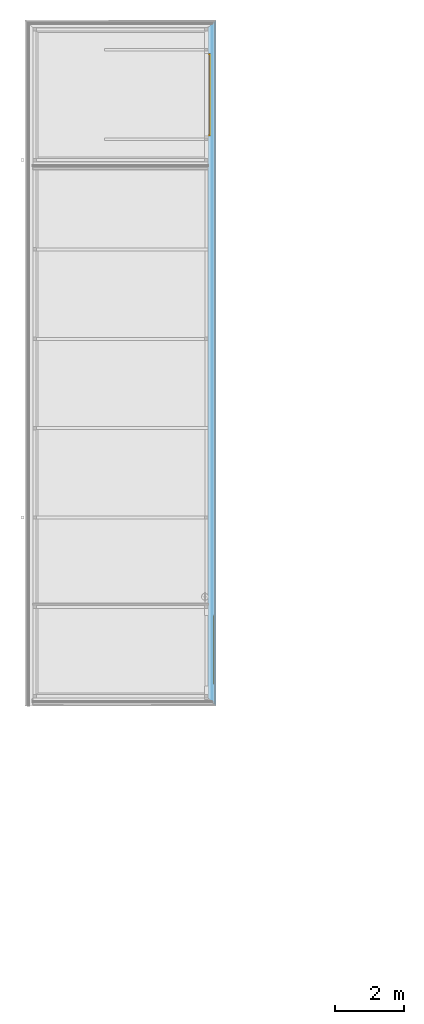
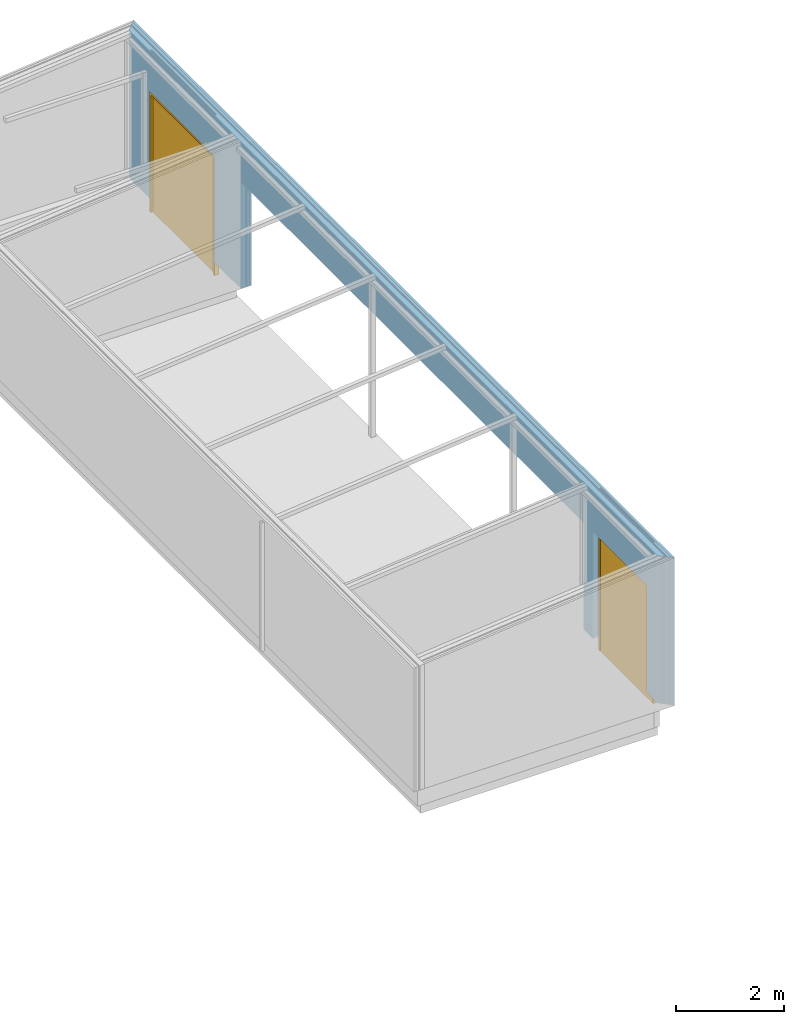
# One storey, part 58 of 112: 2 doors, 3 openings, 1 element without a shape of its own, plus 5 elements that do not belong to this part.
"""IFC2X3 building model written with IfcOpenShell, lengths in millimetres."""

from ifc_helpers import new_model, entity, si_unit, converted_unit, derived_unit, money_unit, direction, frame, origin_with_axes, origin_2d_with_axis, place, context, subcontext, project, spatial, polyline, rectangle, outline, extrude, clip, halfspace, faceted_brep, material, type_object, element, fill, aggregate, save


model = new_model("IFC2X3")

# Units and contexts
model_context = context("Model", 3, precision=0.01, world=origin_with_axes(), true_north=direction((0.0, 1.0)))
body_context = subcontext(model_context, "Body", "Model", "MODEL_VIEW")
ifc_project = project(units=[si_unit("LENGTHUNIT", "METRE", prefix="MILLI"), si_unit("AREAUNIT", "SQUARE_METRE"), si_unit("VOLUMEUNIT", "CUBIC_METRE"), converted_unit("PLANEANGLEUNIT", "DEGREE", entity("IfcPlaneAngleMeasure", 0.0174532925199), si_unit("PLANEANGLEUNIT", "RADIAN"), dimensions=[0, 0, 0, 0, 0, 0, 0]), si_unit("SOLIDANGLEUNIT", "STERADIAN"), money_unit("EUR"), converted_unit("TIMEUNIT", "Year", entity("IfcTimeMeasure", 31556926.0), si_unit("TIMEUNIT", "SECOND"), dimensions=[0, 0, 1, 0, 0, 0, 0]), si_unit("MASSUNIT", "GRAM", prefix="KILO"), si_unit("THERMODYNAMICTEMPERATUREUNIT", "DEGREE_CELSIUS"), si_unit("LUMINOUSINTENSITYUNIT", "LUMEN"), si_unit("ENERGYUNIT", "JOULE", prefix="MEGA"), derived_unit("THERMALCONDUCTANCEUNIT", [(si_unit("POWERUNIT", "WATT"), 1), (si_unit("LENGTHUNIT", "METRE"), -1), (si_unit("THERMODYNAMICTEMPERATUREUNIT", "KELVIN"), -1)]), derived_unit("SPECIFICHEATCAPACITYUNIT", [(si_unit("ENERGYUNIT", "JOULE"), 1), (si_unit("MASSUNIT", "GRAM", prefix="KILO"), -1), (si_unit("THERMODYNAMICTEMPERATUREUNIT", "KELVIN"), -1)]), derived_unit("MASSDENSITYUNIT", [(si_unit("MASSUNIT", "GRAM", prefix="KILO"), 1), (si_unit("VOLUMEUNIT", "CUBIC_METRE"), -1)])], contexts=[model_context])

# Site, building, storey
site_placement = place(None, origin_with_axes())
site = spatial("IfcSite", under=ifc_project, at=site_placement, Name="Politse- ja Piirivalveameti ning Päästeameti ühishoone", CompositionType="ELEMENT")
building_placement = place(site_placement, origin_with_axes())
building = spatial("IfcBuilding", under=site, at=building_placement, Name="Politse- ja Piirivalveameti ning Päästeameti ühishoone", CompositionType="ELEMENT")
storey_placement = place(building_placement, origin_with_axes())
storey = spatial("IfcBuildingStorey", under=building, at=storey_placement, Name="Esimene korrus", CompositionType="ELEMENT", Elevation=0.0)

# Door
door_style_1 = type_object("IfcDoorStyle", Name="Vertical Sliding Garage Door 23", ConstructionType="NOTDEFINED", OperationType="ROLLINGUP", ParameterTakesPrecedence=False, Sizeable=False)
wall_placement = place(storey_placement, frame((51391.8237405, 64199.8510263, 300.0), z_axis=(0.0, 0.0, 1.0), x_axis=(0.0, -1.0, 0.0)))
opening_1_placement = place(wall_placement, frame((1950.0000059, 0.0, -300.0), z_axis=(0.0, 0.0, 1.0), x_axis=(1.0, 0.0, 0.0)))
door_1_placement = place(opening_1_placement, frame((-1200.0, 0.0, 0.0), z_axis=(0.0, 0.0, 1.0), x_axis=(1.0, 0.0, 0.0)))
door_1 = element("IfcDoor", 1, at=door_1_placement, inside=storey, type_object=door_style_1, Name="TV-41", ObjectType="DOOR", OverallHeight=2700.0, OverallWidth=2400.0, context=body_context, shape_type="Brep", body=[
    faceted_brep([(0.0, 100.0, 0.0), (50.0, 100.0, 0.0), (50.0, 0.0, 0.0), (0.0, 0.0, 0.0), (0.0, 100.0, 2650.0), (50.0, 100.0, 2650.0), (50.0, 0.0, 2650.0), (0.0, 0.0, 2650.0)], [[[0, 1, 2, 3]], [[0, 4, 5, 1]], [[1, 5, 6, 2]], [[3, 2, 6, 7]], [[4, 0, 3, 7]], [[5, 4, 7, 6]]]),
    faceted_brep([(2400.0, 100.0, 0.0), (2400.0, 100.0, 2650.0), (2400.0, 0.0, 2650.0), (2400.0, 0.0, 0.0), (2350.0, 100.0, 0.0), (2350.0, 100.0, 2650.0), (2350.0, 0.0, 2650.0), (2350.0, 0.0, 0.0)], [[[0, 1, 2, 3]], [[0, 4, 5, 1]], [[1, 5, 6, 2]], [[3, 2, 6, 7]], [[4, 0, 3, 7]], [[5, 4, 7, 6]]]),
    faceted_brep([(0.0, 100.0, 2700.0), (0.0, 100.0, 2650.0), (0.0, 0.0, 2650.0), (0.0, 0.0, 2700.0), (2400.0, 100.0, 2700.0), (2400.0, 100.0, 2650.0), (2350.0, 100.0, 2650.0), (50.0, 100.0, 2650.0), (50.0, 0.0, 2650.0), (2350.0, 0.0, 2650.0), (2400.0, 0.0, 2650.0), (2400.0, 0.0, 2700.0)], [[[0, 1, 2, 3]], [[0, 4, 5, 6, 7, 1]], [[1, 7, 8, 2]], [[3, 2, 8, 9, 10, 11]], [[4, 0, 3, 11]], [[5, 4, 11, 10]], [[6, 5, 10, 9]], [[7, 6, 9, 8]]]),
    faceted_brep([(2350.0, 44.5, 0.0), (50.0, 44.5, 0.0), (50.0, 74.5, 0.0), (2350.0, 74.5, 0.0), (2350.0, 44.5, 2650.0), (50.0, 44.5, 2650.0), (50.0, 74.5, 2650.0), (2350.0, 74.5, 2650.0)], [[[0, 1, 2, 3]], [[0, 4, 5, 1]], [[1, 5, 6, 2]], [[3, 2, 6, 7]], [[4, 0, 3, 7]], [[5, 4, 7, 6]]]),
    faceted_brep([(100.0, 74.5, 50.0), (2300.0, 74.5, 50.0), (2300.0, 74.5, 520.0), (100.0, 74.5, 520.0), (100.0, 94.5, 50.0), (2300.0, 94.5, 50.0), (2300.0, 94.5, 520.0), (100.0, 94.5, 520.0)], [[[0, 1, 2, 3]], [[1, 0, 4, 5]], [[2, 1, 5, 6]], [[3, 2, 6, 7]], [[0, 3, 7, 4]], [[5, 4, 7, 6]]]),
    faceted_brep([(100.0, 74.5, 570.0), (2300.0, 74.5, 570.0), (2300.0, 74.5, 1040.0), (100.0, 74.5, 1040.0), (100.0, 94.5, 570.0), (2300.0, 94.5, 570.0), (2300.0, 94.5, 1040.0), (100.0, 94.5, 1040.0)], [[[0, 1, 2, 3]], [[1, 0, 4, 5]], [[2, 1, 5, 6]], [[3, 2, 6, 7]], [[0, 3, 7, 4]], [[5, 4, 7, 6]]]),
    faceted_brep([(100.0, 74.5, 1090.0), (2300.0, 74.5, 1090.0), (2300.0, 74.5, 1560.0), (100.0, 74.5, 1560.0), (100.0, 94.5, 1090.0), (2300.0, 94.5, 1090.0), (2300.0, 94.5, 1560.0), (100.0, 94.5, 1560.0)], [[[0, 1, 2, 3]], [[1, 0, 4, 5]], [[2, 1, 5, 6]], [[3, 2, 6, 7]], [[0, 3, 7, 4]], [[5, 4, 7, 6]]]),
    faceted_brep([(100.0, 74.5, 1610.0), (2300.0, 74.5, 1610.0), (2300.0, 74.5, 2080.0), (100.0, 74.5, 2080.0), (100.0, 94.5, 1610.0), (2300.0, 94.5, 1610.0), (2300.0, 94.5, 2080.0), (100.0, 94.5, 2080.0)], [[[0, 1, 2, 3]], [[1, 0, 4, 5]], [[2, 1, 5, 6]], [[3, 2, 6, 7]], [[0, 3, 7, 4]], [[5, 4, 7, 6]]]),
    faceted_brep([(100.0, 74.5, 2130.0), (2300.0, 74.5, 2130.0), (2300.0, 74.5, 2600.0), (100.0, 74.5, 2600.0), (100.0, 94.5, 2130.0), (2300.0, 94.5, 2130.0), (2300.0, 94.5, 2600.0), (100.0, 94.5, 2600.0)], [[[0, 1, 2, 3]], [[1, 0, 4, 5]], [[2, 1, 5, 6]], [[3, 2, 6, 7]], [[0, 3, 7, 4]], [[5, 4, 7, 6]]]),
])

door_style_2 = type_object("IfcDoorStyle", Name="Vertical Sliding Garage Door 23", ConstructionType="NOTDEFINED", OperationType="ROLLINGUP", ParameterTakesPrecedence=False, Sizeable=False)
opening_3_placement = place(wall_placement, frame((18099.5647308, 0.0, -300.0), z_axis=(0.0, 0.0, 1.0), x_axis=(1.0, 0.0, 0.0)))
door_2_placement = place(opening_3_placement, frame((1000.0, 0.0, 0.0), z_axis=(0.0, 0.0, 1.0), x_axis=(-1.0, 0.0, 0.0)))
door_2 = element("IfcDoor", 2, at=door_2_placement, inside=storey, type_object=door_style_2, Name="TV-42", ObjectType="DOOR", OverallHeight=2700.0, OverallWidth=2000.0, context=body_context, shape_type="Brep", body=[
    faceted_brep([(0.0, -125.0, 0.0), (50.0, -125.0, 0.0), (50.0, -225.0, 0.0), (0.0, -225.0, 0.0), (0.0, -125.0, 2650.0), (50.0, -125.0, 2650.0), (50.0, -225.0, 2650.0), (0.0, -225.0, 2650.0)], [[[0, 1, 2, 3]], [[0, 4, 5, 1]], [[1, 5, 6, 2]], [[3, 2, 6, 7]], [[4, 0, 3, 7]], [[5, 4, 7, 6]]]),
    faceted_brep([(2000.0, -125.0, 0.0), (2000.0, -125.0, 2650.0), (2000.0, -225.0, 2650.0), (2000.0, -225.0, 0.0), (1950.0, -125.0, 0.0), (1950.0, -125.0, 2650.0), (1950.0, -225.0, 2650.0), (1950.0, -225.0, 0.0)], [[[0, 1, 2, 3]], [[0, 4, 5, 1]], [[1, 5, 6, 2]], [[3, 2, 6, 7]], [[4, 0, 3, 7]], [[5, 4, 7, 6]]]),
    faceted_brep([(0.0, -125.0, 2700.0), (0.0, -125.0, 2650.0), (0.0, -225.0, 2650.0), (0.0, -225.0, 2700.0), (2000.0, -125.0, 2700.0), (2000.0, -125.0, 2650.0), (1950.0, -125.0, 2650.0), (50.0, -125.0, 2650.0), (50.0, -225.0, 2650.0), (1950.0, -225.0, 2650.0), (2000.0, -225.0, 2650.0), (2000.0, -225.0, 2700.0)], [[[0, 1, 2, 3]], [[0, 4, 5, 6, 7, 1]], [[1, 7, 8, 2]], [[3, 2, 8, 9, 10, 11]], [[4, 0, 3, 11]], [[5, 4, 11, 10]], [[6, 5, 10, 9]], [[7, 6, 9, 8]]]),
    faceted_brep([(1950.0, -180.5, 0.0), (1950.0, -163.833333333, 0.0), (1950.0, -163.833333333, 92.3076923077), (1950.0, -180.5, 92.3076923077), (50.0, -180.5, 0.0), (50.0, -163.833333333, 0.0), (50.0, -163.833333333, 92.3076923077), (50.0, -180.5, 92.3076923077)], [[[0, 1, 2, 3]], [[4, 5, 1, 0]], [[1, 5, 6, 2]], [[3, 2, 6, 7]], [[0, 3, 7, 4]], [[7, 6, 5, 4]]]),
    faceted_brep([(1950.0, -180.5, 102.307692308), (1950.0, -163.833333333, 102.307692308), (1950.0, -163.833333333, 194.615384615), (1950.0, -180.5, 194.615384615), (50.0, -180.5, 102.307692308), (50.0, -163.833333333, 102.307692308), (50.0, -163.833333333, 194.615384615), (50.0, -180.5, 194.615384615)], [[[0, 1, 2, 3]], [[4, 5, 1, 0]], [[1, 5, 6, 2]], [[3, 2, 6, 7]], [[0, 3, 7, 4]], [[7, 6, 5, 4]]]),
    faceted_brep([(1950.0, -180.5, 204.615384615), (1950.0, -163.833333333, 204.615384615), (1950.0, -163.833333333, 296.923076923), (1950.0, -180.5, 296.923076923), (50.0, -180.5, 204.615384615), (50.0, -163.833333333, 204.615384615), (50.0, -163.833333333, 296.923076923), (50.0, -180.5, 296.923076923)], [[[0, 1, 2, 3]], [[4, 5, 1, 0]], [[1, 5, 6, 2]], [[3, 2, 6, 7]], [[0, 3, 7, 4]], [[7, 6, 5, 4]]]),
    faceted_brep([(1950.0, -180.5, 306.923076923), (1950.0, -163.833333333, 306.923076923), (1950.0, -163.833333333, 399.230769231), (1950.0, -180.5, 399.230769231), (50.0, -180.5, 306.923076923), (50.0, -163.833333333, 306.923076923), (50.0, -163.833333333, 399.230769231), (50.0, -180.5, 399.230769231)], [[[0, 1, 2, 3]], [[4, 5, 1, 0]], [[1, 5, 6, 2]], [[3, 2, 6, 7]], [[0, 3, 7, 4]], [[7, 6, 5, 4]]]),
    faceted_brep([(1950.0, -180.5, 409.230769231), (1950.0, -163.833333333, 409.230769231), (1950.0, -163.833333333, 501.538461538), (1950.0, -180.5, 501.538461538), (50.0, -180.5, 409.230769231), (50.0, -163.833333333, 409.230769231), (50.0, -163.833333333, 501.538461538), (50.0, -180.5, 501.538461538)], [[[0, 1, 2, 3]], [[4, 5, 1, 0]], [[1, 5, 6, 2]], [[3, 2, 6, 7]], [[0, 3, 7, 4]], [[7, 6, 5, 4]]]),
    faceted_brep([(1950.0, -180.5, 511.538461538), (1950.0, -163.833333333, 511.538461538), (1950.0, -163.833333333, 603.846153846), (1950.0, -180.5, 603.846153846), (50.0, -180.5, 511.538461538), (50.0, -163.833333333, 511.538461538), (50.0, -163.833333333, 603.846153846), (50.0, -180.5, 603.846153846)], [[[0, 1, 2, 3]], [[4, 5, 1, 0]], [[1, 5, 6, 2]], [[3, 2, 6, 7]], [[0, 3, 7, 4]], [[7, 6, 5, 4]]]),
    faceted_brep([(1950.0, -180.5, 613.846153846), (1950.0, -163.833333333, 613.846153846), (1950.0, -163.833333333, 706.153846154), (1950.0, -180.5, 706.153846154), (50.0, -180.5, 613.846153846), (50.0, -163.833333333, 613.846153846), (50.0, -163.833333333, 706.153846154), (50.0, -180.5, 706.153846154)], [[[0, 1, 2, 3]], [[4, 5, 1, 0]], [[1, 5, 6, 2]], [[3, 2, 6, 7]], [[0, 3, 7, 4]], [[7, 6, 5, 4]]]),
    faceted_brep([(1950.0, -180.5, 716.153846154), (1950.0, -163.833333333, 716.153846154), (1950.0, -163.833333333, 808.461538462), (1950.0, -180.5, 808.461538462), (50.0, -180.5, 716.153846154), (50.0, -163.833333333, 716.153846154), (50.0, -163.833333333, 808.461538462), (50.0, -180.5, 808.461538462)], [[[0, 1, 2, 3]], [[4, 5, 1, 0]], [[1, 5, 6, 2]], [[3, 2, 6, 7]], [[0, 3, 7, 4]], [[7, 6, 5, 4]]]),
    faceted_brep([(1950.0, -180.5, 818.461538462), (1950.0, -163.833333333, 818.461538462), (1950.0, -163.833333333, 910.769230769), (1950.0, -180.5, 910.769230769), (50.0, -180.5, 818.461538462), (50.0, -163.833333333, 818.461538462), (50.0, -163.833333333, 910.769230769), (50.0, -180.5, 910.769230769)], [[[0, 1, 2, 3]], [[4, 5, 1, 0]], [[1, 5, 6, 2]], [[3, 2, 6, 7]], [[0, 3, 7, 4]], [[7, 6, 5, 4]]]),
    faceted_brep([(1950.0, -180.5, 920.769230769), (1950.0, -163.833333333, 920.769230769), (1950.0, -163.833333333, 1013.07692308), (1950.0, -180.5, 1013.07692308), (50.0, -180.5, 920.769230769), (50.0, -163.833333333, 920.769230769), (50.0, -163.833333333, 1013.07692308), (50.0, -180.5, 1013.07692308)], [[[0, 1, 2, 3]], [[4, 5, 1, 0]], [[1, 5, 6, 2]], [[3, 2, 6, 7]], [[0, 3, 7, 4]], [[7, 6, 5, 4]]]),
    faceted_brep([(1950.0, -180.5, 1023.07692308), (1950.0, -163.833333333, 1023.07692308), (1950.0, -163.833333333, 1115.38461538), (1950.0, -180.5, 1115.38461538), (50.0, -180.5, 1023.07692308), (50.0, -163.833333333, 1023.07692308), (50.0, -163.833333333, 1115.38461538), (50.0, -180.5, 1115.38461538)], [[[0, 1, 2, 3]], [[4, 5, 1, 0]], [[1, 5, 6, 2]], [[3, 2, 6, 7]], [[0, 3, 7, 4]], [[7, 6, 5, 4]]]),
    faceted_brep([(1950.0, -180.5, 1125.38461538), (1950.0, -163.833333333, 1125.38461538), (1950.0, -163.833333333, 1217.69230769), (1950.0, -180.5, 1217.69230769), (50.0, -180.5, 1125.38461538), (50.0, -163.833333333, 1125.38461538), (50.0, -163.833333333, 1217.69230769), (50.0, -180.5, 1217.69230769)], [[[0, 1, 2, 3]], [[4, 5, 1, 0]], [[1, 5, 6, 2]], [[3, 2, 6, 7]], [[0, 3, 7, 4]], [[7, 6, 5, 4]]]),
    faceted_brep([(1950.0, -180.5, 1227.69230769), (1950.0, -163.833333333, 1227.69230769), (1950.0, -163.833333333, 1320.0), (1950.0, -180.5, 1320.0), (50.0, -180.5, 1227.69230769), (50.0, -163.833333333, 1227.69230769), (50.0, -163.833333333, 1320.0), (50.0, -180.5, 1320.0)], [[[0, 1, 2, 3]], [[4, 5, 1, 0]], [[1, 5, 6, 2]], [[3, 2, 6, 7]], [[0, 3, 7, 4]], [[7, 6, 5, 4]]]),
    faceted_brep([(1950.0, -180.5, 1330.0), (1950.0, -163.833333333, 1330.0), (1950.0, -163.833333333, 1422.30769231), (1950.0, -180.5, 1422.30769231), (50.0, -180.5, 1330.0), (50.0, -163.833333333, 1330.0), (50.0, -163.833333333, 1422.30769231), (50.0, -180.5, 1422.30769231)], [[[0, 1, 2, 3]], [[4, 5, 1, 0]], [[1, 5, 6, 2]], [[3, 2, 6, 7]], [[0, 3, 7, 4]], [[7, 6, 5, 4]]]),
    faceted_brep([(1950.0, -180.5, 1432.30769231), (1950.0, -163.833333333, 1432.30769231), (1950.0, -163.833333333, 1524.61538462), (1950.0, -180.5, 1524.61538462), (50.0, -180.5, 1432.30769231), (50.0, -163.833333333, 1432.30769231), (50.0, -163.833333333, 1524.61538462), (50.0, -180.5, 1524.61538462)], [[[0, 1, 2, 3]], [[4, 5, 1, 0]], [[1, 5, 6, 2]], [[3, 2, 6, 7]], [[0, 3, 7, 4]], [[7, 6, 5, 4]]]),
    faceted_brep([(1950.0, -180.5, 1534.61538462), (1950.0, -163.833333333, 1534.61538462), (1950.0, -163.833333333, 1626.92307692), (1950.0, -180.5, 1626.92307692), (50.0, -180.5, 1534.61538462), (50.0, -163.833333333, 1534.61538462), (50.0, -163.833333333, 1626.92307692), (50.0, -180.5, 1626.92307692)], [[[0, 1, 2, 3]], [[4, 5, 1, 0]], [[1, 5, 6, 2]], [[3, 2, 6, 7]], [[0, 3, 7, 4]], [[7, 6, 5, 4]]]),
    faceted_brep([(1950.0, -180.5, 1636.92307692), (1950.0, -163.833333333, 1636.92307692), (1950.0, -163.833333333, 1729.23076923), (1950.0, -180.5, 1729.23076923), (50.0, -180.5, 1636.92307692), (50.0, -163.833333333, 1636.92307692), (50.0, -163.833333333, 1729.23076923), (50.0, -180.5, 1729.23076923)], [[[0, 1, 2, 3]], [[4, 5, 1, 0]], [[1, 5, 6, 2]], [[3, 2, 6, 7]], [[0, 3, 7, 4]], [[7, 6, 5, 4]]]),
    faceted_brep([(1950.0, -180.5, 1739.23076923), (1950.0, -163.833333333, 1739.23076923), (1950.0, -163.833333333, 1831.53846154), (1950.0, -180.5, 1831.53846154), (50.0, -180.5, 1739.23076923), (50.0, -163.833333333, 1739.23076923), (50.0, -163.833333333, 1831.53846154), (50.0, -180.5, 1831.53846154)], [[[0, 1, 2, 3]], [[4, 5, 1, 0]], [[1, 5, 6, 2]], [[3, 2, 6, 7]], [[0, 3, 7, 4]], [[7, 6, 5, 4]]]),
    faceted_brep([(1950.0, -180.5, 1841.53846154), (1950.0, -163.833333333, 1841.53846154), (1950.0, -163.833333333, 1933.84615385), (1950.0, -180.5, 1933.84615385), (50.0, -180.5, 1841.53846154), (50.0, -163.833333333, 1841.53846154), (50.0, -163.833333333, 1933.84615385), (50.0, -180.5, 1933.84615385)], [[[0, 1, 2, 3]], [[4, 5, 1, 0]], [[1, 5, 6, 2]], [[3, 2, 6, 7]], [[0, 3, 7, 4]], [[7, 6, 5, 4]]]),
    faceted_brep([(1950.0, -180.5, 1943.84615385), (1950.0, -163.833333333, 1943.84615385), (1950.0, -163.833333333, 2036.15384615), (1950.0, -180.5, 2036.15384615), (50.0, -180.5, 1943.84615385), (50.0, -163.833333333, 1943.84615385), (50.0, -163.833333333, 2036.15384615), (50.0, -180.5, 2036.15384615)], [[[0, 1, 2, 3]], [[4, 5, 1, 0]], [[1, 5, 6, 2]], [[3, 2, 6, 7]], [[0, 3, 7, 4]], [[7, 6, 5, 4]]]),
    faceted_brep([(1950.0, -180.5, 2046.15384615), (1950.0, -163.833333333, 2046.15384615), (1950.0, -163.833333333, 2138.46153846), (1950.0, -180.5, 2138.46153846), (50.0, -180.5, 2046.15384615), (50.0, -163.833333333, 2046.15384615), (50.0, -163.833333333, 2138.46153846), (50.0, -180.5, 2138.46153846)], [[[0, 1, 2, 3]], [[4, 5, 1, 0]], [[1, 5, 6, 2]], [[3, 2, 6, 7]], [[0, 3, 7, 4]], [[7, 6, 5, 4]]]),
    faceted_brep([(1950.0, -180.5, 2148.46153846), (1950.0, -163.833333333, 2148.46153846), (1950.0, -163.833333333, 2240.76923077), (1950.0, -180.5, 2240.76923077), (50.0, -180.5, 2148.46153846), (50.0, -163.833333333, 2148.46153846), (50.0, -163.833333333, 2240.76923077), (50.0, -180.5, 2240.76923077)], [[[0, 1, 2, 3]], [[4, 5, 1, 0]], [[1, 5, 6, 2]], [[3, 2, 6, 7]], [[0, 3, 7, 4]], [[7, 6, 5, 4]]]),
    faceted_brep([(1950.0, -180.5, 2250.76923077), (1950.0, -163.833333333, 2250.76923077), (1950.0, -163.833333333, 2343.07692308), (1950.0, -180.5, 2343.07692308), (50.0, -180.5, 2250.76923077), (50.0, -163.833333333, 2250.76923077), (50.0, -163.833333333, 2343.07692308), (50.0, -180.5, 2343.07692308)], [[[0, 1, 2, 3]], [[4, 5, 1, 0]], [[1, 5, 6, 2]], [[3, 2, 6, 7]], [[0, 3, 7, 4]], [[7, 6, 5, 4]]]),
    faceted_brep([(1950.0, -180.5, 2353.07692308), (1950.0, -163.833333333, 2353.07692308), (1950.0, -163.833333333, 2445.38461538), (1950.0, -180.5, 2445.38461538), (50.0, -180.5, 2353.07692308), (50.0, -163.833333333, 2353.07692308), (50.0, -163.833333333, 2445.38461538), (50.0, -180.5, 2445.38461538)], [[[0, 1, 2, 3]], [[4, 5, 1, 0]], [[1, 5, 6, 2]], [[3, 2, 6, 7]], [[0, 3, 7, 4]], [[7, 6, 5, 4]]]),
    faceted_brep([(1950.0, -180.5, 2455.38461538), (1950.0, -163.833333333, 2455.38461538), (1950.0, -163.833333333, 2547.69230769), (1950.0, -180.5, 2547.69230769), (50.0, -180.5, 2455.38461538), (50.0, -163.833333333, 2455.38461538), (50.0, -163.833333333, 2547.69230769), (50.0, -180.5, 2547.69230769)], [[[0, 1, 2, 3]], [[4, 5, 1, 0]], [[1, 5, 6, 2]], [[3, 2, 6, 7]], [[0, 3, 7, 4]], [[7, 6, 5, 4]]]),
    faceted_brep([(1950.0, -180.5, 2557.69230769), (1950.0, -163.833333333, 2557.69230769), (1950.0, -163.833333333, 2650.0), (1950.0, -180.5, 2650.0), (50.0, -180.5, 2557.69230769), (50.0, -163.833333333, 2557.69230769), (50.0, -163.833333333, 2650.0), (50.0, -180.5, 2650.0)], [[[0, 1, 2, 3]], [[4, 5, 1, 0]], [[1, 5, 6, 2]], [[3, 2, 6, 7]], [[0, 3, 7, 4]], [[7, 6, 5, 4]]]),
    faceted_brep([(50.0, -163.833333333, 0.0), (50.0, -130.5, 0.0), (1950.0, -130.5, 0.0), (1950.0, -163.833333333, 0.0), (50.0, -163.833333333, 2650.0), (50.0, -130.5, 2650.0), (1950.0, -130.5, 2650.0), (1950.0, -163.833333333, 2650.0)], [[[0, 1, 2, 3]], [[4, 5, 1, 0]], [[1, 5, 6, 2]], [[3, 2, 6, 7]], [[0, 3, 7, 4]], [[7, 6, 5, 4]]]),
])

# Wall, opening
wall_type = type_object("IfcWallType", Name="VS-41_Välissein PPA varjualune 225", PredefinedType="NOTDEFINED")
wall = element("IfcWall", 3, at=wall_placement, inside=storey, type_object=wall_type, Name="VS-41")
opening_1 = element("IfcOpeningElement", 4, at=opening_1_placement, cuts=wall, Name="TV-41", context=body_context, shape_type="SweptSolid", body=[
    extrude(rectangle(XDim=2400.0, YDim=2700.0, at=origin_2d_with_axis()), frame((0.0, 100.0, 1350.0), z_axis=(0.0, -1.0, 0.0), x_axis=(1.0, 0.0, 0.0)), (0.0, 0.0, -1.0), 350.0),
    extrude(rectangle(XDim=2400.0, YDim=2700.0, at=origin_2d_with_axis()), frame((0.0, 100.0, 1350.0), z_axis=(0.0, 1.0, 0.0), x_axis=(1.0, 0.0, 0.0)), (0.0, 0.0, -1.0), 325.0),
    extrude(outline(polyline([(-1200.0, 5400.0), (-1200.0, 2700.0), (1200.0, 2700.0), (1200.0, 5400.0), (-1200.0, 5400.0)])), frame((0.0, 50.0, 0.0), z_axis=(0.0, -1.0, 0.0), x_axis=(1.0, 0.0, 0.0)), (0.0, 0.0, 1.0), 45.0),
])

fill(opening_1, door_1)

# Opening
opening_2_placement = place(wall_placement, frame((10437.4999762, 0.0, -300.0), z_axis=(0.0, 0.0, 1.0), x_axis=(1.0, 0.0, 0.0)))
element("IfcOpeningElement", 5, at=opening_2_placement, cuts=wall, Name="TÜHI AVA", context=body_context, shape_type="SweptSolid", body=[
    extrude(rectangle(XDim=12625.0000477, YDim=2700.10652938, at=origin_2d_with_axis()), frame((0.0, -225.0, 1350.05326469), z_axis=(0.0, 1.0, 0.0), x_axis=(-1.0, 0.0, 0.0)), (0.0, 0.0, 1.0), 675.0),
])

opening_3 = element("IfcOpeningElement", 6, at=opening_3_placement, cuts=wall, Name="TV-42", context=body_context, shape_type="SweptSolid", body=[
    extrude(rectangle(XDim=2000.0, YDim=2700.0, at=origin_2d_with_axis()), frame((0.0, -225.0, 1350.0), z_axis=(0.0, 1.0, 0.0), x_axis=(-1.0, 0.0, 0.0)), (0.0, 0.0, 1.0), 675.0),
    extrude(outline(polyline([(-1000.0, 5400.0), (-1000.0, 2700.0), (1000.0, 2700.0), (1000.0, 5400.0), (-1000.0, 5400.0)])), frame((0.0, 130.0, 0.0), z_axis=(0.0, 1.0, 0.0), x_axis=(-1.0, 0.0, 0.0)), (0.0, 0.0, 1.0), 45.0),
])

fill(opening_3, door_2)

# Building element part
ifc_material_1 = material(Name="Õhkvahe")
building_element_part_1_placement = place(wall_placement, origin_with_axes())
building_element_part_1 = element("IfcBuildingElementPart", 7, at=building_element_part_1_placement, material=ifc_material_1, Name="Õhkvahe", context=body_context, shape_type="Clipping", body=[
    clip(extrude(outline(polyline([(0.0, 0.0), (19500.0, 0.0), (19600.0, 100.0), (-100.0, 100.0), (0.0, 0.0)])), origin_with_axes(), (0.0, 0.0, 1.0), 3500.0), halfspace(frame((0.0, -327.469865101, 3280.82495279), z_axis=(0.0, 0.0993197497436, -0.995055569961), x_axis=(0.0, 0.995055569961, 0.0993197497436)), True)),
])

ifc_material_2 = material(Name="Vineer")
building_element_part_2_placement = place(wall_placement, origin_with_axes())
building_element_part_2 = element("IfcBuildingElementPart", 8, at=building_element_part_2_placement, material=ifc_material_2, Name="Vineer", context=body_context, shape_type="Clipping", body=[
    clip(extrude(outline(polyline([(-100.0, 100.0), (19600.0, 100.0), (19615.0, 115.0), (-115.0, 115.0), (-100.0, 100.0)])), origin_with_axes(), (0.0, 0.0, 1.0), 3500.0), halfspace(frame((0.0, -327.469865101, 3280.82495279), z_axis=(0.0, 0.0993197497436, -0.995055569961), x_axis=(0.0, 0.995055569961, 0.0993197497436)), True)),
])

building_element_part_3_placement = place(wall_placement, origin_with_axes())
building_element_part_3 = element("IfcBuildingElementPart", 9, at=building_element_part_3_placement, material=ifc_material_1, Name="Õhkvahe", context=body_context, shape_type="Clipping", body=[
    clip(extrude(outline(polyline([(-115.0, 115.0), (19615.0, 115.0), (19630.0, 130.0), (-130.0, 130.0), (-115.0, 115.0)])), origin_with_axes(), (0.0, 0.0, 1.0), 3500.0), halfspace(frame((0.0, -327.469865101, 3280.82495279), z_axis=(0.0, 0.0993197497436, -0.995055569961), x_axis=(0.0, 0.995055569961, 0.0993197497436)), True)),
])

building_element_part_4_placement = place(wall_placement, origin_with_axes())
building_element_part_4 = element("IfcBuildingElementPart", 10, at=building_element_part_4_placement, material=ifc_material_1, Name="Õhkvahe", context=body_context, shape_type="Clipping", body=[
    clip(extrude(outline(polyline([(-130.0, 130.0), (19630.0, 130.0), (19680.0, 180.0), (-180.0, 180.0), (-130.0, 130.0)])), origin_with_axes(), (0.0, 0.0, 1.0), 3500.0), halfspace(frame((0.0, -327.469865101, 3280.82495279), z_axis=(0.0, 0.0993197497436, -0.995055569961), x_axis=(0.0, 0.995055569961, 0.0993197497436)), True)),
])

ifc_material_3 = material(Name="GENEERILINE - VÄLINE VOODER")
building_element_part_5_placement = place(wall_placement, origin_with_axes())
building_element_part_5 = element("IfcBuildingElementPart", 11, at=building_element_part_5_placement, material=ifc_material_3, Name="GENEERILINE - VÄLINE VOODER", context=body_context, shape_type="Clipping", body=[
    clip(extrude(outline(polyline([(-180.0, 180.0), (19680.0, 180.0), (19725.0, 225.0), (-225.0, 225.0), (-180.0, 180.0)])), origin_with_axes(), (0.0, 0.0, 1.0), 3500.0), halfspace(frame((0.0, -327.469865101, 3280.82495279), z_axis=(0.0, 0.0993197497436, -0.995055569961), x_axis=(0.0, 0.995055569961, 0.0993197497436)), True)),
])

aggregate(wall, [building_element_part_1, building_element_part_2, building_element_part_3, building_element_part_4, building_element_part_5])

save(model, "model.ifc")
